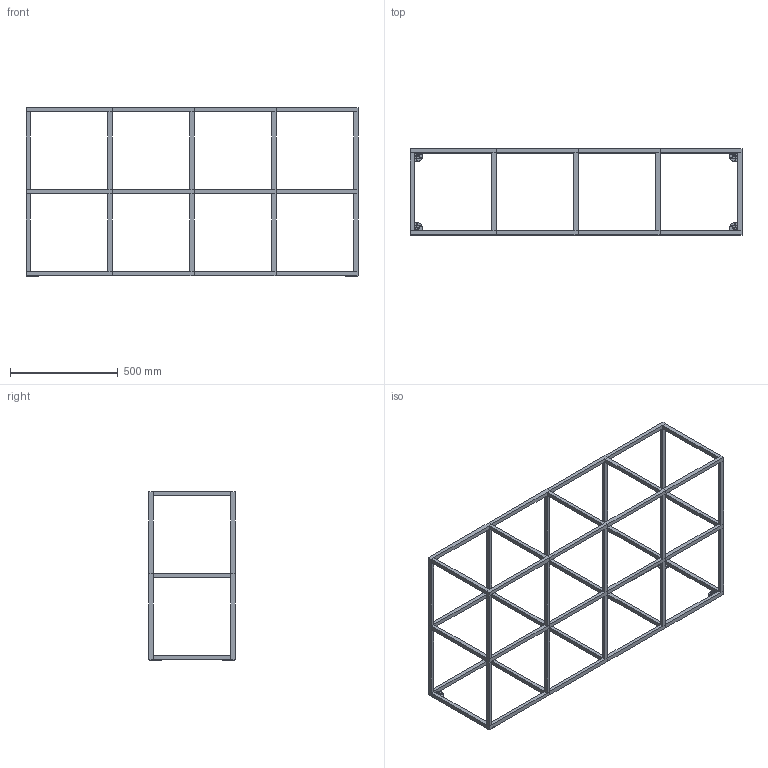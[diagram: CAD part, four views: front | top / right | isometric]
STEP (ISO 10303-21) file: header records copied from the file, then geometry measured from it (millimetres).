
FILE_DESCRIPTION(/* description */ (''),/* implementation_level */ '2;1');
FILE_NAME(/* name */ 'KINOSH~2',/* time_stamp */ '2021-07-29T19:41:30+09:00',/* author */ (''),/* organization */ (''),/* preprocessor_version */ 'ST-DEVELOPER v16.5',/* originating_system */ '',/* authorisation */ '');
FILE_SCHEMA (('AUTOMOTIVE_DESIGN'));
Length unit declared in the file: millimetre
Products named in the file (1): Document
Bounding box: 1543 x 400 x 784.2 mm (x, y, z)
Volume: 7961773.1 mm3; surface area: 1677580.3 mm2
Topology: 8 solids, 8 shells, 335 faces, 738 edges, 368 vertices
Faces by surface type: plane 299, bspline 36
Entity records: 8656 total; most frequent: CARTESIAN_POINT 3317, ORIENTED_EDGE 1476, EDGE_CURVE 738, B_SPLINE_CURVE_WITH_KNOTS 630, EDGE_LOOP 392, VERTEX_POINT 368, ADVANCED_FACE 335, FACE_OUTER_BOUND 335
